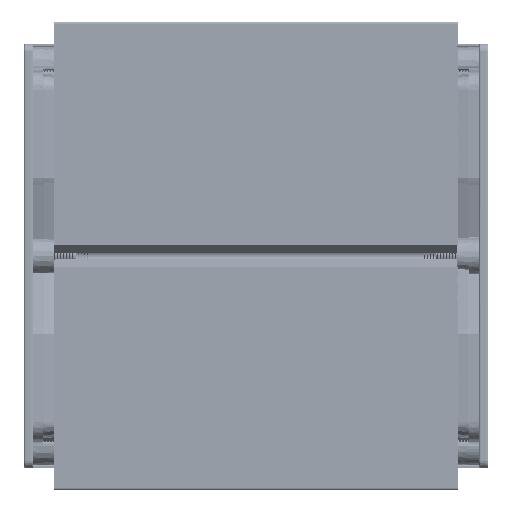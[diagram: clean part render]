
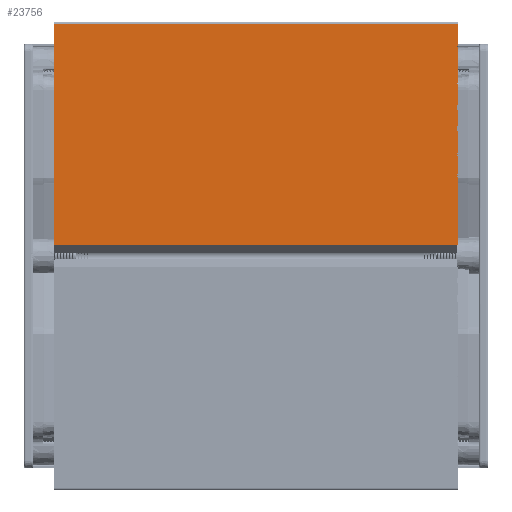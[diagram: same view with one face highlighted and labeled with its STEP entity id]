
A CAD part, front view. The second image highlights one B-rep face of the part: STEP entity #23756.
In plain terms, the highlighted planar face has unit normal (0, -1, 0).
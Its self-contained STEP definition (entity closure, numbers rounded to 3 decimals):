
#2707 = EDGE_CURVE ( 'NONE', #87565, #140143, #186337, .T. ) ;
#7929 = ORIENTED_EDGE ( 'NONE', *, *, #67318, .F. ) ;
#23756 = ADVANCED_FACE ( 'NONE', ( #285245 ), #158988, .F. ) ;
#24762 = CARTESIAN_POINT ( 'NONE',  ( 108.5, -10.193, 2.887 ) ) ;
#26740 = DIRECTION ( 'NONE',  ( -1., 0., 0. ) ) ;
#36029 = EDGE_CURVE ( 'NONE', #37506, #244624, #206798, .T. ) ;
#37506 = VERTEX_POINT ( 'NONE', #260012 ) ;
#40314 = DIRECTION ( 'NONE',  ( 0., 1., 0. ) ) ;
#44849 = CARTESIAN_POINT ( 'NONE',  ( 0., -10.193, 56.265 ) ) ;
#51467 = ORIENTED_EDGE ( 'NONE', *, *, #2707, .T. ) ;
#54421 = CARTESIAN_POINT ( 'NONE',  ( 108.5, -10.193, 56.265 ) ) ;
#58276 = DIRECTION ( 'NONE',  ( -1., 0., 0. ) ) ;
#64116 = ORIENTED_EDGE ( 'NONE', *, *, #263393, .T. ) ;
#67318 = EDGE_CURVE ( 'NONE', #87565, #37506, #97175, .T. ) ;
#67792 = EDGE_LOOP ( 'NONE', ( #81153, #7929, #51467, #64116 ) ) ;
#81153 = ORIENTED_EDGE ( 'NONE', *, *, #36029, .F. ) ;
#84430 = CARTESIAN_POINT ( 'NONE',  ( 108.5, -10.193, 62.5 ) ) ;
#87565 = VERTEX_POINT ( 'NONE', #169111 ) ;
#88568 = DIRECTION ( 'NONE',  ( 0., 0., 1. ) ) ;
#97175 = LINE ( 'NONE', #54421, #255847 ) ;
#107126 = AXIS2_PLACEMENT_3D ( 'NONE', #135860, #40314, #88568 ) ;
#120377 = CARTESIAN_POINT ( 'NONE',  ( 0., -10.193, 2.887 ) ) ;
#135860 = CARTESIAN_POINT ( 'NONE',  ( 108.5, -10.193, 56.265 ) ) ;
#140143 = VERTEX_POINT ( 'NONE', #177996 ) ;
#158988 = PLANE ( 'NONE',  #107126 ) ;
#168208 = DIRECTION ( 'NONE',  ( 0., 0., -1. ) ) ;
#169111 = CARTESIAN_POINT ( 'NONE',  ( 108.5, -10.193, 62.5 ) ) ;
#177996 = CARTESIAN_POINT ( 'NONE',  ( 0., -10.193, 62.5 ) ) ;
#186337 = LINE ( 'NONE', #84430, #236859 ) ;
#202936 = DIRECTION ( 'NONE',  ( 0., 0., -1. ) ) ;
#206798 = LINE ( 'NONE', #24762, #213967 ) ;
#213967 = VECTOR ( 'NONE', #26740, 1000. ) ;
#236859 = VECTOR ( 'NONE', #58276, 1000. ) ;
#244624 = VERTEX_POINT ( 'NONE', #120377 ) ;
#254663 = VECTOR ( 'NONE', #202936, 1000. ) ;
#255847 = VECTOR ( 'NONE', #168208, 1000. ) ;
#260012 = CARTESIAN_POINT ( 'NONE',  ( 108.5, -10.193, 2.887 ) ) ;
#263393 = EDGE_CURVE ( 'NONE', #140143, #244624, #286965, .T. ) ;
#285245 = FACE_OUTER_BOUND ( 'NONE', #67792, .T. ) ;
#286965 = LINE ( 'NONE', #44849, #254663 ) ;
